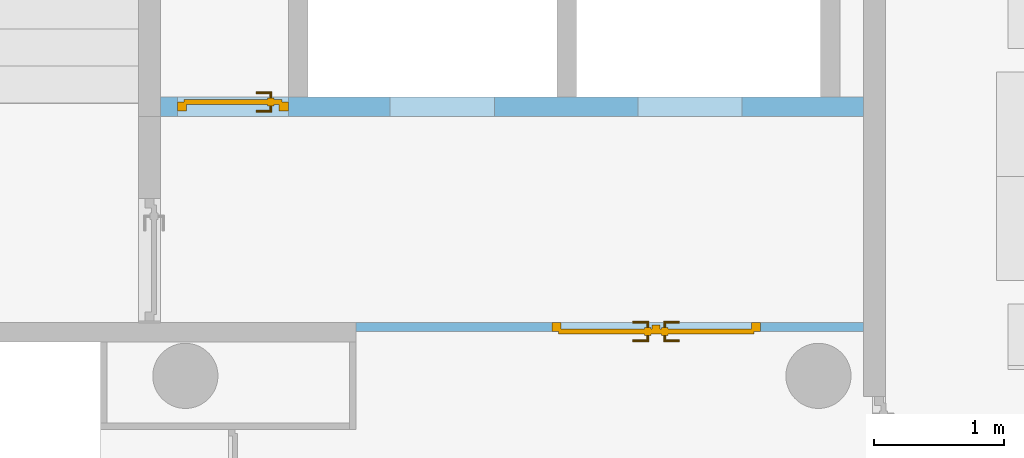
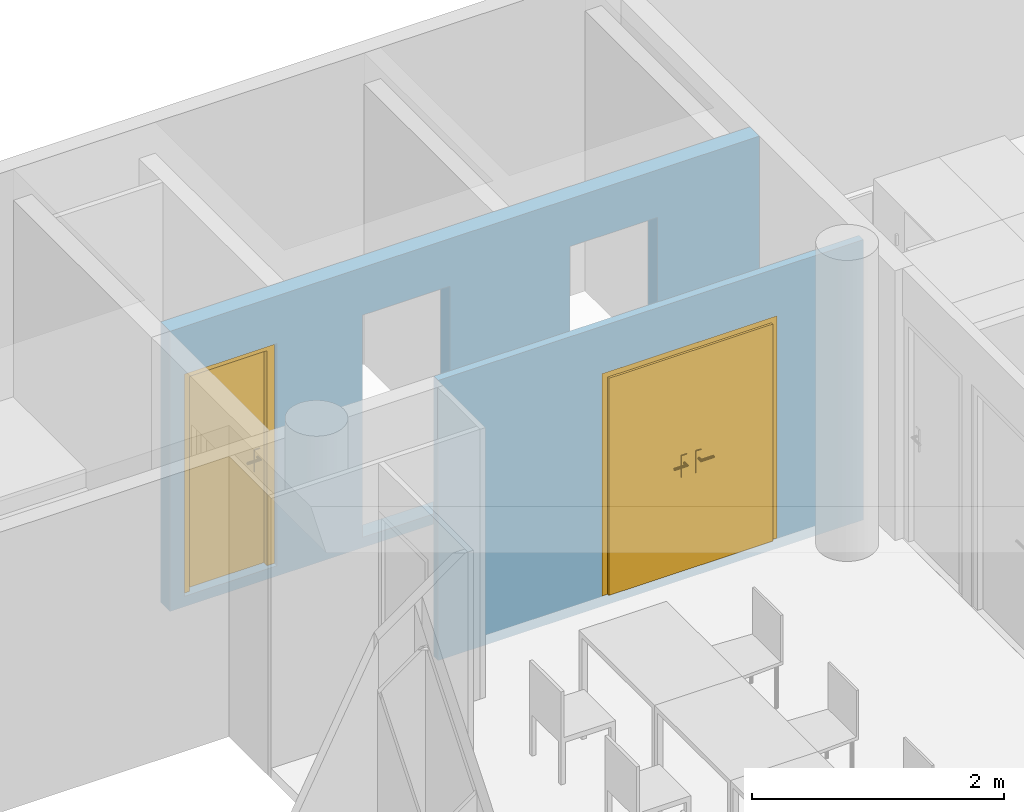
"""IFC4 building model written with IfcOpenShell, lengths in metres."""

from ifc_helpers import new_model, entity, si_unit, converted_unit, derived_unit, frame, frame_2d, origin, origin_with_axes, place, context, subcontext, project, spatial, polyline, rectangle, outline, extrude, faceted_brep, source, transform, mapped, material, layer, layer_set, layer_usage, element, fill, save


model = new_model("IFC4")

# Units and contexts
model_context = context("Model", 3, precision=1e-05, world=origin())
body_context = subcontext(model_context, "Body", "Model", "MODEL_VIEW")
ifc_project = project(units=[si_unit("LENGTHUNIT", "METRE"), si_unit("AREAUNIT", "SQUARE_METRE"), si_unit("VOLUMEUNIT", "CUBIC_METRE"), si_unit("MASSUNIT", "GRAM", prefix="KILO"), converted_unit("PLANEANGLEUNIT", "DEGREE", entity("IfcPlaneAngleMeasure", 0.0174532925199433), si_unit("PLANEANGLEUNIT", "RADIAN"), dimensions=[0, 0, 0, 0, 0, 0, 0]), derived_unit("THERMALTRANSMITTANCEUNIT", [(si_unit("POWERUNIT", "WATT"), 1), (si_unit("THERMODYNAMICTEMPERATUREUNIT", "KELVIN"), -1), (si_unit("LENGTHUNIT", "METRE"), -2)]), derived_unit("VOLUMETRICFLOWRATEUNIT", [(si_unit("LENGTHUNIT", "METRE"), 3), (converted_unit("TIMEUNIT", "hour", entity("IfcTimeMeasure", 3600.0), si_unit("TIMEUNIT", "SECOND"), dimensions=[0, 0, 1, 0, 0, 0, 0]), -1), (si_unit("LENGTHUNIT", "METRE"), -1)])], contexts=[model_context])

# Building, storeys
building_placement = place(None, origin())
building = spatial("IfcBuilding", under=ifc_project, at=building_placement, Name="HABITATGE PLURIFAMILIAR", CompositionType="ELEMENT")
storey_1_placement = place(building_placement, frame((0.0, 0.0, 6.25)))
storey_1 = spatial("IfcBuildingStorey", under=building, at=storey_1_placement, Name="PLANTA PRIMERA", CompositionType="ELEMENT", Elevation=6.25)
storey_2_placement = place(storey_1_placement, frame((0.0, 0.0, 3.35)))
storey_2 = spatial("IfcBuildingStorey", under=storey_1, at=storey_2_placement, Name="NOU", CompositionType="PARTIAL")

# Wall, opening, door
ifc_material_1 = material()
ifc_layer_1 = layer(ifc_material_1, 0.07)
ifc_layer_set_1 = layer_set([ifc_layer_1])
ifc_layer_usage_1 = layer_usage(ifc_layer_set_1, "AXIS2", "POSITIVE", 0.0)
wall_1_placement = place(storey_2_placement, frame((421.336984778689, 24.3094598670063, -3.45), z_axis=(0.0, 0.0, 1.0), x_axis=(-1.0, 5.98536358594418e-14, 0.0)))
wall_1 = element("IfcWall", 1, at=wall_1_placement, inside=storey_2, material=ifc_layer_usage_1, Name="Mampara P1", context=body_context, shape_type="SweptSolid", body=[
    extrude(rectangle(XDim=3.8900000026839, YDim=0.07, at=frame_2d((1.94500000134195, 0.035), x_axis=(1.0, 0.0))), origin_with_axes(), (0.0, 0.0, 1.0), 2.71),
])
opening_1_placement = place(wall_1_placement, frame((2.39000000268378, 0.0700000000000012, 0.1), z_axis=(5.84675165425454e-14, -1.0, 0.0), x_axis=(0.0, 0.0, 1.0)))
opening_1 = element("IfcOpeningElement", 2, at=opening_1_placement, cuts=wall_1, Name="Vano de puerta P1", ObjectType="Opening", context=body_context, shape_type="SweptSolid", body=[
    extrude(outline(polyline([(2.15, 1.60127470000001), (2.15, 0.0), (0.0, 0.0), (0.0, 1.60127470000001), (2.15, 1.60127470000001)])), origin_with_axes(), (0.0, 0.0, 1.0), 0.07),
])
shared_shape_1 = source(origin_with_axes(), body_context, "Body", "Brep", [
    faceted_brep([(1.60127470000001, 0.0700000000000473, 2.15), (1.53127470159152, 0.07000000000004, 2.15), (1.53127470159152, 0.07000000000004, 0.0), (1.60127470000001, 0.0700000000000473, 0.0), (1.60127470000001, 0.0, 0.0), (1.53127470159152, 0.0, 0.0), (1.53127470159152, 0.0, 2.15), (1.60127470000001, 0.0, 2.15)], [[[0, 1, 2, 3]], [[4, 5, 6, 7]], [[3, 4, 7, 0]], [[2, 5, 4, 3]], [[1, 6, 5, 2]], [[0, 7, 6, 1]]], orient=[[False], [False], [False], [False], [False], [False]]),
    faceted_brep([(0.0699999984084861, 0.0699999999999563, 2.15), (0.0, 0.0699999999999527, 2.15), (0.0, 0.0699999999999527, 0.0), (0.0699999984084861, 0.0699999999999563, 0.0), (0.0699999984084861, 0.0, 0.0), (0.0, 0.0, 0.0), (0.0, 0.0, 2.15), (0.0699999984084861, 0.0, 2.15)], [[[0, 1, 2, 3]], [[4, 5, 6, 7]], [[3, 4, 7, 0]], [[2, 5, 4, 3]], [[1, 6, 5, 2]], [[0, 7, 6, 1]]], orient=[[False], [False], [False], [False], [False], [False]]),
    faceted_brep([(1.53127470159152, 0.07000000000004, 2.15), (0.0699999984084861, 0.0699999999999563, 2.15), (0.0699999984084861, 0.0699999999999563, 2.08), (1.53127470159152, 0.07000000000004, 2.08), (1.53127470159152, 0.0, 2.08), (0.0699999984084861, 0.0, 2.08), (0.0699999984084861, 0.0, 2.15), (1.53127470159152, 0.0, 2.15)], [[[0, 1, 2, 3]], [[4, 5, 6, 7]], [[3, 4, 7, 0]], [[2, 5, 4, 3]], [[1, 6, 5, 2]], [[0, 7, 6, 1]]], orient=[[False], [False], [False], [False], [False], [False]]),
    faceted_brep([(1.5512747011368, 0.0900000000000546, 2.1), (0.801137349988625, 0.0900000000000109, 2.1), (0.801137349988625, 0.0900000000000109, 0.0), (1.5512747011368, 0.0900000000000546, 0.0), (1.5512747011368, 0.0500000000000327, 0.0), (0.801137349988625, 0.0499999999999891, 0.0), (0.801137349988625, 0.0499999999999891, 2.1), (1.5512747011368, 0.0500000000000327, 2.1)], [[[0, 1, 2, 3]], [[4, 5, 6, 7]], [[3, 4, 7, 0]], [[2, 5, 4, 3]], [[1, 6, 5, 2]], [[0, 7, 6, 1]]], orient=[[False], [False], [False], [False], [False], [False]]),
    faceted_brep([(0.831137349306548, 0.0499999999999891, 2.08), (0.771137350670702, 0.0499999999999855, 2.08), (0.771137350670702, 0.0499999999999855, 0.0), (0.831137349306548, 0.0499999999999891, 0.0), (0.831137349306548, 0.0199999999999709, 0.0), (0.771137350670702, 0.0199999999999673, 0.0), (0.771137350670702, 0.0199999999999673, 2.08), (0.831137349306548, 0.0199999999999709, 2.08)], [[[0, 1, 2, 3]], [[4, 5, 6, 7]], [[3, 4, 7, 0]], [[2, 5, 4, 3]], [[1, 6, 5, 2]], [[0, 7, 6, 1]]], orient=[[False], [False], [False], [False], [False], [False]]),
    faceted_brep([(0.891137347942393, 0.0499999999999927, 1.125), (0.841137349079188, 0.0499999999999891, 1.125), (0.841137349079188, 0.0499999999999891, 0.91), (0.891137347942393, 0.0499999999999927, 0.91), (0.891137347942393, 0.0399999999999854, 0.91), (0.841137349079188, 0.0399999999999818, 0.91), (0.841137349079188, 0.0399999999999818, 1.125), (0.891137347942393, 0.0399999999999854, 1.125)], [[[0, 1, 2, 3]], [[4, 5, 6, 7]], [[3, 4, 7, 0]], [[2, 5, 4, 3]], [[1, 6, 5, 2]], [[0, 7, 6, 1]]], orient=[[False], [False], [False], [False], [False], [False]]),
    faceted_brep([(0.866137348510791, 0.0399999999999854, 1.06), (0.86113734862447, 0.0399999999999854, 1.05866025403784), (0.857477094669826, 0.0399999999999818, 1.055), (0.85613734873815, 0.0399999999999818, 1.05), (0.857477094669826, 0.0399999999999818, 1.045), (0.86113734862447, 0.0399999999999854, 1.04133974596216), (0.866137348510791, 0.0399999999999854, 1.04), (0.871137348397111, 0.0399999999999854, 1.04133974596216), (0.874797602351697, 0.0399999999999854, 1.045), (0.876137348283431, 0.0399999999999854, 1.05), (0.874797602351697, 0.0399999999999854, 1.055), (0.871137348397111, 0.0399999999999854, 1.05866025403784), (0.866137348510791, 0.0, 1.06), (0.86113734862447, -0.00500000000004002, 1.05866025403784), (0.857477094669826, -0.00866025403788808, 1.055), (0.85613734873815, -0.0100000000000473, 1.05), (0.857477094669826, -0.00866025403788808, 1.045), (0.86113734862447, -0.00500000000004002, 1.04133974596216), (0.866137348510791, 0.0, 1.04), (0.871137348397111, 0.00499999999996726, 1.04133974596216), (0.874797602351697, 0.00866025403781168, 1.045), (0.876137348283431, 0.0099999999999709, 1.05), (0.874797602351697, 0.00866025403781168, 1.055), (0.871137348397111, 0.00499999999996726, 1.05866025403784), (0.981137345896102, 0.0, 1.06), (0.981137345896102, 0.0049999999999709, 1.05866025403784), (0.981137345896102, 0.00866025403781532, 1.055), (0.981137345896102, 0.00999999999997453, 1.05), (0.981137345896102, 0.00866025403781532, 1.045), (0.981137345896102, 0.0049999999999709, 1.04133974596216), (0.981137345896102, 0.0, 1.04), (0.981137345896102, -0.00500000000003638, 1.04133974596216), (0.981137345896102, -0.00866025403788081, 1.045), (0.981137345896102, -0.01000000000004, 1.05), (0.981137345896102, -0.00866025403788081, 1.055), (0.981137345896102, -0.00500000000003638, 1.05866025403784)], [[[0, 1, 2, 3, 4, 5, 6, 7, 8, 9, 10, 11]], [[0, 12, 13, 1]], [[1, 13, 14, 2]], [[2, 14, 15, 3]], [[3, 15, 16, 4]], [[4, 16, 17, 5]], [[5, 17, 18, 6]], [[6, 18, 19, 7]], [[7, 19, 20, 8]], [[8, 20, 21, 9]], [[9, 21, 22, 10]], [[10, 22, 23, 11]], [[11, 23, 12, 0]], [[24, 25, 26, 27, 28, 29, 30, 31, 32, 33, 34, 35]], [[12, 24, 35, 13]], [[13, 35, 34, 14]], [[14, 34, 33, 15]], [[15, 33, 32, 16]], [[16, 32, 31, 17]], [[17, 31, 30, 18]], [[18, 30, 29, 19]], [[19, 29, 28, 20]], [[20, 28, 27, 21]], [[21, 27, 26, 22]], [[22, 26, 25, 23]], [[23, 25, 24, 12]]], orient=[[False], [False], [False], [False], [False], [False], [False], [False], [False], [False], [False], [False], [False], [False], [False], [False], [False], [False], [False], [False], [False], [False], [False], [False], [False], [False]]),
    faceted_brep([(0.891137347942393, 0.0900000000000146, 1.125), (0.891137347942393, 0.0900000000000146, 0.91), (0.841137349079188, 0.0900000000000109, 0.91), (0.841137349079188, 0.0900000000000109, 1.125), (0.891137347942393, 0.100000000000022, 0.91), (0.891137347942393, 0.100000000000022, 1.125), (0.841137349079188, 0.100000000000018, 1.125), (0.841137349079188, 0.100000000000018, 0.91)], [[[0, 1, 2, 3]], [[4, 5, 6, 7]], [[1, 0, 5, 4]], [[2, 1, 4, 7]], [[3, 2, 7, 6]], [[0, 3, 6, 5]]], orient=[[False], [False], [False], [False], [False], [False]]),
    faceted_brep([(0.866137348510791, 0.100000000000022, 1.06), (0.871137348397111, 0.100000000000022, 1.05866025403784), (0.874797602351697, 0.100000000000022, 1.055), (0.876137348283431, 0.100000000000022, 1.05), (0.874797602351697, 0.100000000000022, 1.045), (0.871137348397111, 0.100000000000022, 1.04133974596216), (0.866137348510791, 0.100000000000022, 1.04), (0.86113734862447, 0.100000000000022, 1.04133974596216), (0.857477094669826, 0.100000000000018, 1.045), (0.85613734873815, 0.100000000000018, 1.05), (0.857477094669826, 0.100000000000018, 1.055), (0.86113734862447, 0.100000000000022, 1.05866025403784), (0.86113734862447, 0.145000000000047, 1.05866025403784), (0.866137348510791, 0.140000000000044, 1.06), (0.857477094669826, 0.148660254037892, 1.055), (0.85613734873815, 0.150000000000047, 1.05), (0.857477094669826, 0.148660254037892, 1.045), (0.86113734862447, 0.145000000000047, 1.04133974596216), (0.866137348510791, 0.140000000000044, 1.04), (0.871137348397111, 0.13500000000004, 1.04133974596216), (0.874797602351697, 0.131339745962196, 1.045), (0.876137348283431, 0.13000000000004, 1.05), (0.874797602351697, 0.131339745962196, 1.055), (0.871137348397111, 0.13500000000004, 1.05866025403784), (0.981137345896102, 0.140000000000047, 1.06), (0.981137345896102, 0.145000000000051, 1.05866025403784), (0.981137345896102, 0.148660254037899, 1.055), (0.981137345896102, 0.150000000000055, 1.05), (0.981137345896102, 0.148660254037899, 1.045), (0.981137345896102, 0.145000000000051, 1.04133974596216), (0.981137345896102, 0.140000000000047, 1.04), (0.981137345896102, 0.135000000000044, 1.04133974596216), (0.981137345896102, 0.131339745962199, 1.045), (0.981137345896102, 0.130000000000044, 1.05), (0.981137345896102, 0.131339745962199, 1.055), (0.981137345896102, 0.135000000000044, 1.05866025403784)], [[[0, 1, 2, 3, 4, 5, 6, 7, 8, 9, 10, 11]], [[0, 11, 12, 13]], [[11, 10, 14, 12]], [[10, 9, 15, 14]], [[9, 8, 16, 15]], [[8, 7, 17, 16]], [[7, 6, 18, 17]], [[6, 5, 19, 18]], [[5, 4, 20, 19]], [[4, 3, 21, 20]], [[3, 2, 22, 21]], [[2, 1, 23, 22]], [[1, 0, 13, 23]], [[24, 25, 26, 27, 28, 29, 30, 31, 32, 33, 34, 35]], [[13, 12, 25, 24]], [[12, 14, 26, 25]], [[14, 15, 27, 26]], [[15, 16, 28, 27]], [[16, 17, 29, 28]], [[17, 18, 30, 29]], [[18, 19, 31, 30]], [[19, 20, 32, 31]], [[20, 21, 33, 32]], [[21, 22, 34, 33]], [[22, 23, 35, 34]], [[23, 13, 24, 35]]], orient=[[False], [False], [False], [False], [False], [False], [False], [False], [False], [False], [False], [False], [False], [False], [False], [False], [False], [False], [False], [False], [False], [False], [False], [False], [False], [False]]),
    faceted_brep([(0.800137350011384, 0.0900000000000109, 2.1), (0.0499999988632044, 0.0899999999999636, 2.1), (0.0499999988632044, 0.0899999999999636, 0.0), (0.800137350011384, 0.0900000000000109, 0.0), (0.800137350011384, 0.0499999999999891, 0.0), (0.0499999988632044, 0.0499999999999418, 0.0), (0.0499999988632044, 0.0499999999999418, 2.1), (0.800137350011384, 0.0499999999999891, 2.1)], [[[0, 1, 2, 3]], [[4, 5, 6, 7]], [[3, 4, 7, 0]], [[2, 5, 4, 3]], [[1, 6, 5, 2]], [[0, 7, 6, 1]]], orient=[[False], [False], [False], [False], [False], [False]]),
    faceted_brep([(0.760137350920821, 0.0499999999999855, 1.125), (0.710137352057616, 0.0499999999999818, 1.125), (0.710137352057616, 0.0499999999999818, 0.91), (0.760137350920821, 0.0499999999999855, 0.91), (0.760137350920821, 0.0399999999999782, 0.91), (0.710137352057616, 0.0399999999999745, 0.91), (0.710137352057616, 0.0399999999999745, 1.125), (0.760137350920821, 0.0399999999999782, 1.125)], [[[0, 1, 2, 3]], [[4, 5, 6, 7]], [[3, 4, 7, 0]], [[2, 5, 4, 3]], [[1, 6, 5, 2]], [[0, 7, 6, 1]]], orient=[[False], [False], [False], [False], [False], [False]]),
    faceted_brep([(0.735137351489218, 0.0399999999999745, 1.06), (0.730137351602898, 0.0399999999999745, 1.05866025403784), (0.726477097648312, 0.0399999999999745, 1.055), (0.725137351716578, 0.0399999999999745, 1.05), (0.726477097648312, 0.0399999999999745, 1.045), (0.730137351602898, 0.0399999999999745, 1.04133974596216), (0.735137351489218, 0.0399999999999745, 1.04), (0.740137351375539, 0.0399999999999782, 1.04133974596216), (0.743797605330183, 0.0399999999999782, 1.045), (0.745137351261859, 0.0399999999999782, 1.05), (0.743797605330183, 0.0399999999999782, 1.055), (0.740137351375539, 0.0399999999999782, 1.05866025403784), (0.740137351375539, -0.00500000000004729, 1.05866025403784), (0.735137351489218, 0.0, 1.06), (0.743797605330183, -0.00866025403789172, 1.055), (0.745137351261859, -0.0100000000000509, 1.05), (0.743797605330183, -0.00866025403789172, 1.045), (0.740137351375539, -0.00500000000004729, 1.04133974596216), (0.735137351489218, 0.0, 1.04), (0.730137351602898, 0.00499999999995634, 1.04133974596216), (0.726477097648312, 0.00866025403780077, 1.045), (0.725137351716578, 0.00999999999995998, 1.05), (0.726477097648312, 0.00866025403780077, 1.055), (0.730137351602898, 0.00499999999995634, 1.05866025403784), (0.620137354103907, 0.0, 1.06), (0.620137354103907, -0.00500000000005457, 1.05866025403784), (0.620137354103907, -0.00866025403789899, 1.055), (0.620137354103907, -0.0100000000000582, 1.05), (0.620137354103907, -0.00866025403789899, 1.045), (0.620137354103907, -0.00500000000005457, 1.04133974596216), (0.620137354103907, 0.0, 1.04), (0.620137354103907, 0.00499999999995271, 1.04133974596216), (0.620137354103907, 0.00866025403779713, 1.045), (0.620137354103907, 0.00999999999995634, 1.05), (0.620137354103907, 0.00866025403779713, 1.055), (0.620137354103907, 0.00499999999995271, 1.05866025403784)], [[[0, 1, 2, 3, 4, 5, 6, 7, 8, 9, 10, 11]], [[0, 11, 12, 13]], [[11, 10, 14, 12]], [[10, 9, 15, 14]], [[9, 8, 16, 15]], [[8, 7, 17, 16]], [[7, 6, 18, 17]], [[6, 5, 19, 18]], [[5, 4, 20, 19]], [[4, 3, 21, 20]], [[3, 2, 22, 21]], [[2, 1, 23, 22]], [[1, 0, 13, 23]], [[24, 25, 26, 27, 28, 29, 30, 31, 32, 33, 34, 35]], [[13, 12, 25, 24]], [[12, 14, 26, 25]], [[14, 15, 27, 26]], [[15, 16, 28, 27]], [[16, 17, 29, 28]], [[17, 18, 30, 29]], [[18, 19, 31, 30]], [[19, 20, 32, 31]], [[20, 21, 33, 32]], [[21, 22, 34, 33]], [[22, 23, 35, 34]], [[23, 13, 24, 35]]], orient=[[False], [False], [False], [False], [False], [False], [False], [False], [False], [False], [False], [False], [False], [False], [False], [False], [False], [False], [False], [False], [False], [False], [False], [False], [False], [False]]),
    faceted_brep([(0.760137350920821, 0.0900000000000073, 1.125), (0.760137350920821, 0.0900000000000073, 0.91), (0.710137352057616, 0.0900000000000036, 0.91), (0.710137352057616, 0.0900000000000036, 1.125), (0.760137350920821, 0.100000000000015, 0.91), (0.760137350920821, 0.100000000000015, 1.125), (0.710137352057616, 0.100000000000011, 1.125), (0.710137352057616, 0.100000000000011, 0.91)], [[[0, 1, 2, 3]], [[4, 5, 6, 7]], [[1, 0, 5, 4]], [[2, 1, 4, 7]], [[3, 2, 7, 6]], [[0, 3, 6, 5]]], orient=[[False], [False], [False], [False], [False], [False]]),
    faceted_brep([(0.735137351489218, 0.100000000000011, 1.06), (0.740137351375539, 0.100000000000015, 1.05866025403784), (0.743797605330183, 0.100000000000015, 1.055), (0.745137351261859, 0.100000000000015, 1.05), (0.743797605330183, 0.100000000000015, 1.045), (0.740137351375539, 0.100000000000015, 1.04133974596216), (0.735137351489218, 0.100000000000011, 1.04), (0.730137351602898, 0.100000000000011, 1.04133974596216), (0.726477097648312, 0.100000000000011, 1.045), (0.725137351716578, 0.100000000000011, 1.05), (0.726477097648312, 0.100000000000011, 1.055), (0.730137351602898, 0.100000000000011, 1.05866025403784), (0.735137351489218, 0.140000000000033, 1.06), (0.740137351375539, 0.14500000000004, 1.05866025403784), (0.743797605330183, 0.148660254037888, 1.055), (0.745137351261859, 0.150000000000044, 1.05), (0.743797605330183, 0.148660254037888, 1.045), (0.740137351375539, 0.14500000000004, 1.04133974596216), (0.735137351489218, 0.140000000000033, 1.04), (0.730137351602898, 0.135000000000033, 1.04133974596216), (0.726477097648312, 0.131339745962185, 1.045), (0.725137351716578, 0.130000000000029, 1.05), (0.726477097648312, 0.131339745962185, 1.055), (0.730137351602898, 0.135000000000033, 1.05866025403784), (0.620137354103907, 0.140000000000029, 1.06), (0.620137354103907, 0.135000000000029, 1.05866025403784), (0.620137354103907, 0.131339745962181, 1.055), (0.620137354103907, 0.130000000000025, 1.05), (0.620137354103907, 0.131339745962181, 1.045), (0.620137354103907, 0.135000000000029, 1.04133974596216), (0.620137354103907, 0.140000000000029, 1.04), (0.620137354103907, 0.145000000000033, 1.04133974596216), (0.620137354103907, 0.148660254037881, 1.045), (0.620137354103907, 0.150000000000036, 1.05), (0.620137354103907, 0.148660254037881, 1.055), (0.620137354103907, 0.145000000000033, 1.05866025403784)], [[[0, 1, 2, 3, 4, 5, 6, 7, 8, 9, 10, 11]], [[0, 12, 13, 1]], [[1, 13, 14, 2]], [[2, 14, 15, 3]], [[3, 15, 16, 4]], [[4, 16, 17, 5]], [[5, 17, 18, 6]], [[6, 18, 19, 7]], [[7, 19, 20, 8]], [[8, 20, 21, 9]], [[9, 21, 22, 10]], [[10, 22, 23, 11]], [[11, 23, 12, 0]], [[24, 25, 26, 27, 28, 29, 30, 31, 32, 33, 34, 35]], [[12, 24, 35, 13]], [[13, 35, 34, 14]], [[14, 34, 33, 15]], [[15, 33, 32, 16]], [[16, 32, 31, 17]], [[17, 31, 30, 18]], [[18, 30, 29, 19]], [[19, 29, 28, 20]], [[20, 28, 27, 21]], [[21, 27, 26, 22]], [[22, 26, 25, 23]], [[23, 25, 24, 12]]], orient=[[False], [False], [False], [False], [False], [False], [False], [False], [False], [False], [False], [False], [False], [False], [False], [False], [False], [False], [False], [False], [False], [False], [False], [False], [False], [False]]),
])
door_1_placement = place(opening_1_placement, frame((0.0, 1.60127470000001, 0.0699999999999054), z_axis=(1.0, 0.0, 0.0), x_axis=(0.0, -1.0, 5.7683975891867e-14)))
door_1 = element("IfcDoor", 3, at=door_1_placement, inside=storey_2, Name="Porta P1", OperationType="USERDEFINED", OverallHeight=2.15, OverallWidth=1.60127, PredefinedType="DOOR", context=body_context, shape_type="MappedRepresentation", body=[
    mapped(shared_shape_1, transform((0.0, 0.0, 0.0), x_axis=(1.0, 0.0, 0.0), y_axis=(0.0, 1.0, 0.0), z_axis=(0.0, 0.0, 1.0), scale=1.0)),
])
fill(opening_1, door_1)

# Wall, openings, door
ifc_material_2 = material()
ifc_layer_2 = layer(ifc_material_2, 0.15)
ifc_layer_set_2 = layer_set([ifc_layer_2])
ifc_layer_usage_2 = layer_usage(ifc_layer_set_2, "AXIS2", "POSITIVE", 0.0)
wall_2_placement = place(storey_2_placement, frame((415.946984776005, 25.8894598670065, -3.45)))
wall_2 = element("IfcWall", 4, at=wall_2_placement, inside=storey_2, material=ifc_layer_usage_2, Name="Envans P1", context=body_context, shape_type="SweptSolid", body=[
    extrude(rectangle(XDim=5.39000000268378, YDim=0.15, at=frame_2d((2.69500000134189, 0.075), x_axis=(1.0, 0.0))), origin_with_axes(), (0.0, 0.0, 1.0), 2.71),
])
opening_2_placement = place(wall_2_placement, frame((3.66000000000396, 0.0, 0.1), z_axis=(0.0, 1.0, 0.0), x_axis=(0.0, 0.0, 1.0)))
element("IfcOpeningElement", 5, at=opening_2_placement, cuts=wall_2, Name="Vano de puerta P1", ObjectType="Opening", context=body_context, shape_type="SweptSolid", body=[
    extrude(outline(polyline([(2.15, 0.8), (2.15, 0.0), (0.0, 0.0), (0.0, 0.8), (2.15, 0.8)])), origin_with_axes(), (0.0, 0.0, 1.0), 0.15),
])
opening_3_placement = place(wall_2_placement, frame((0.13, 0.0, 0.1), z_axis=(0.0, 1.0, 0.0), x_axis=(0.0, 0.0, 1.0)))
opening_3 = element("IfcOpeningElement", 6, at=opening_3_placement, cuts=wall_2, Name="Vano de puerta P1", ObjectType="Opening", context=body_context, shape_type="SweptSolid", body=[
    extrude(outline(polyline([(2.15, 0.849999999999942), (2.15, 0.0), (0.0, 0.0), (0.0, 0.849999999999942), (2.15, 0.849999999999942)])), origin_with_axes(), (0.0, 0.0, 1.0), 0.15),
])
opening_4_placement = place(wall_2_placement, frame((1.76000000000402, 0.0, 0.1), z_axis=(0.0, 1.0, 0.0), x_axis=(0.0, 0.0, 1.0)))
element("IfcOpeningElement", 7, at=opening_4_placement, cuts=wall_2, Name="Vano de puerta P1", ObjectType="Opening", context=body_context, shape_type="SweptSolid", body=[
    extrude(outline(polyline([(2.15, 0.8), (2.15, 0.0), (0.0, 0.0), (0.0, 0.8), (2.15, 0.8)])), origin_with_axes(), (0.0, 0.0, 1.0), 0.15),
])
shared_shape_2 = source(origin_with_axes(), body_context, "Body", "Brep", [
    faceted_brep([(0.849999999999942, 0.07, 2.15), (0.779999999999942, 0.07, 2.15), (0.779999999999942, 0.07, 0.0), (0.849999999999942, 0.07, 0.0), (0.849999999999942, 0.0, 0.0), (0.779999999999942, 0.0, 0.0), (0.779999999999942, 0.0, 2.15), (0.849999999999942, 0.0, 2.15)], [[[0, 1, 2, 3]], [[4, 5, 6, 7]], [[3, 4, 7, 0]], [[2, 5, 4, 3]], [[1, 6, 5, 2]], [[0, 7, 6, 1]]], orient=[[False], [False], [False], [False], [False], [False]]),
    faceted_brep([(0.07, 0.07, 2.15), (0.0, 0.07, 2.15), (0.0, 0.07, 0.0), (0.07, 0.07, 0.0), (0.07, 0.0, 0.0), (0.0, 0.0, 0.0), (0.0, 0.0, 2.15), (0.07, 0.0, 2.15)], [[[0, 1, 2, 3]], [[4, 5, 6, 7]], [[3, 4, 7, 0]], [[2, 5, 4, 3]], [[1, 6, 5, 2]], [[0, 7, 6, 1]]], orient=[[False], [False], [False], [False], [False], [False]]),
    faceted_brep([(0.779999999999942, 0.07, 2.15), (0.07, 0.07, 2.15), (0.07, 0.07, 2.08), (0.779999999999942, 0.07, 2.08), (0.779999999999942, 0.0, 2.08), (0.07, 0.0, 2.08), (0.07, 0.0, 2.15), (0.779999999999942, 0.0, 2.15)], [[[0, 1, 2, 3]], [[4, 5, 6, 7]], [[3, 4, 7, 0]], [[2, 5, 4, 3]], [[1, 6, 5, 2]], [[0, 7, 6, 1]]], orient=[[False], [False], [False], [False], [False], [False]]),
    faceted_brep([(0.799999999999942, 0.09, 2.1), (0.05, 0.09, 2.1), (0.05, 0.09, 0.0), (0.799999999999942, 0.09, 0.0), (0.799999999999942, 0.05, 0.0), (0.05, 0.05, 0.0), (0.05, 0.05, 2.1), (0.799999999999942, 0.05, 2.1)], [[[0, 1, 2, 3]], [[4, 5, 6, 7]], [[3, 4, 7, 0]], [[2, 5, 4, 3]], [[1, 6, 5, 2]], [[0, 7, 6, 1]]], orient=[[False], [False], [False], [False], [False], [False]]),
    faceted_brep([(0.739999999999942, 0.05, 1.125), (0.689999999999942, 0.05, 1.125), (0.689999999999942, 0.05, 0.91), (0.739999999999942, 0.05, 0.91), (0.739999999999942, 0.04, 0.91), (0.689999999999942, 0.04, 0.91), (0.689999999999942, 0.04, 1.125), (0.739999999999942, 0.04, 1.125)], [[[0, 1, 2, 3]], [[4, 5, 6, 7]], [[3, 4, 7, 0]], [[2, 5, 4, 3]], [[1, 6, 5, 2]], [[0, 7, 6, 1]]], orient=[[False], [False], [False], [False], [False], [False]]),
    faceted_brep([(0.714999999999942, 0.04, 1.06), (0.709999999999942, 0.04, 1.05866025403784), (0.706339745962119, 0.04, 1.055), (0.704999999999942, 0.04, 1.05), (0.706339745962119, 0.04, 1.045), (0.709999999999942, 0.04, 1.04133974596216), (0.714999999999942, 0.04, 1.04), (0.719999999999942, 0.04, 1.04133974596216), (0.723660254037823, 0.04, 1.045), (0.724999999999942, 0.04, 1.05), (0.723660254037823, 0.04, 1.055), (0.719999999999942, 0.04, 1.05866025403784), (0.719999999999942, -0.005, 1.05866025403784), (0.714999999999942, 0.0, 1.06), (0.723660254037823, -0.00866025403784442, 1.055), (0.724999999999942, -0.01, 1.05), (0.723660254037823, -0.00866025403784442, 1.045), (0.719999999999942, -0.005, 1.04133974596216), (0.714999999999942, 0.0, 1.04), (0.709999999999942, 0.005, 1.04133974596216), (0.706339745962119, 0.00866025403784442, 1.045), (0.704999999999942, 0.01, 1.05), (0.706339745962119, 0.00866025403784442, 1.055), (0.709999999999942, 0.005, 1.05866025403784), (0.599999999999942, 0.0, 1.06), (0.599999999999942, -0.005, 1.05866025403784), (0.599999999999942, -0.00866025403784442, 1.055), (0.599999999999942, -0.01, 1.05), (0.599999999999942, -0.00866025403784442, 1.045), (0.599999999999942, -0.005, 1.04133974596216), (0.599999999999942, 0.0, 1.04), (0.599999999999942, 0.005, 1.04133974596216), (0.599999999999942, 0.00866025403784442, 1.045), (0.599999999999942, 0.01, 1.05), (0.599999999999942, 0.00866025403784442, 1.055), (0.599999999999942, 0.005, 1.05866025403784)], [[[0, 1, 2, 3, 4, 5, 6, 7, 8, 9, 10, 11]], [[0, 11, 12, 13]], [[11, 10, 14, 12]], [[10, 9, 15, 14]], [[9, 8, 16, 15]], [[8, 7, 17, 16]], [[7, 6, 18, 17]], [[6, 5, 19, 18]], [[5, 4, 20, 19]], [[4, 3, 21, 20]], [[3, 2, 22, 21]], [[2, 1, 23, 22]], [[1, 0, 13, 23]], [[24, 25, 26, 27, 28, 29, 30, 31, 32, 33, 34, 35]], [[13, 12, 25, 24]], [[12, 14, 26, 25]], [[14, 15, 27, 26]], [[15, 16, 28, 27]], [[16, 17, 29, 28]], [[17, 18, 30, 29]], [[18, 19, 31, 30]], [[19, 20, 32, 31]], [[20, 21, 33, 32]], [[21, 22, 34, 33]], [[22, 23, 35, 34]], [[23, 13, 24, 35]]], orient=[[False], [False], [False], [False], [False], [False], [False], [False], [False], [False], [False], [False], [False], [False], [False], [False], [False], [False], [False], [False], [False], [False], [False], [False], [False], [False]]),
    faceted_brep([(0.739999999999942, 0.09, 1.125), (0.739999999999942, 0.09, 0.91), (0.689999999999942, 0.09, 0.91), (0.689999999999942, 0.09, 1.125), (0.739999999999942, 0.1, 0.91), (0.739999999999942, 0.1, 1.125), (0.689999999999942, 0.1, 1.125), (0.689999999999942, 0.1, 0.91)], [[[0, 1, 2, 3]], [[4, 5, 6, 7]], [[1, 0, 5, 4]], [[2, 1, 4, 7]], [[3, 2, 7, 6]], [[0, 3, 6, 5]]], orient=[[False], [False], [False], [False], [False], [False]]),
    faceted_brep([(0.714999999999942, 0.1, 1.06), (0.719999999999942, 0.1, 1.05866025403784), (0.723660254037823, 0.1, 1.055), (0.724999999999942, 0.1, 1.05), (0.723660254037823, 0.1, 1.045), (0.719999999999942, 0.1, 1.04133974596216), (0.714999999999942, 0.1, 1.04), (0.709999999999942, 0.1, 1.04133974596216), (0.706339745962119, 0.1, 1.045), (0.704999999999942, 0.1, 1.05), (0.706339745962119, 0.1, 1.055), (0.709999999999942, 0.1, 1.05866025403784), (0.714999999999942, 0.14, 1.06), (0.719999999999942, 0.145, 1.05866025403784), (0.723660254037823, 0.148660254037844, 1.055), (0.724999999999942, 0.15, 1.05), (0.723660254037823, 0.148660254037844, 1.045), (0.719999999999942, 0.145, 1.04133974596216), (0.714999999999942, 0.14, 1.04), (0.709999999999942, 0.135, 1.04133974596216), (0.706339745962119, 0.131339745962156, 1.045), (0.704999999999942, 0.13, 1.05), (0.706339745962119, 0.131339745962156, 1.055), (0.709999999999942, 0.135, 1.05866025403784), (0.599999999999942, 0.14, 1.06), (0.599999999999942, 0.135, 1.05866025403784), (0.599999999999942, 0.131339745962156, 1.055), (0.599999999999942, 0.13, 1.05), (0.599999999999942, 0.131339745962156, 1.045), (0.599999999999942, 0.135, 1.04133974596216), (0.599999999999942, 0.14, 1.04), (0.599999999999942, 0.145, 1.04133974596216), (0.599999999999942, 0.148660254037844, 1.045), (0.599999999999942, 0.15, 1.05), (0.599999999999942, 0.148660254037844, 1.055), (0.599999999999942, 0.145, 1.05866025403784)], [[[0, 1, 2, 3, 4, 5, 6, 7, 8, 9, 10, 11]], [[0, 12, 13, 1]], [[1, 13, 14, 2]], [[2, 14, 15, 3]], [[3, 15, 16, 4]], [[4, 16, 17, 5]], [[5, 17, 18, 6]], [[6, 18, 19, 7]], [[7, 19, 20, 8]], [[8, 20, 21, 9]], [[9, 21, 22, 10]], [[10, 22, 23, 11]], [[11, 23, 12, 0]], [[24, 25, 26, 27, 28, 29, 30, 31, 32, 33, 34, 35]], [[12, 24, 35, 13]], [[13, 35, 34, 14]], [[14, 34, 33, 15]], [[15, 33, 32, 16]], [[16, 32, 31, 17]], [[17, 31, 30, 18]], [[18, 30, 29, 19]], [[19, 29, 28, 20]], [[20, 28, 27, 21]], [[21, 27, 26, 22]], [[22, 26, 25, 23]], [[23, 25, 24, 12]]], orient=[[False], [False], [False], [False], [False], [False], [False], [False], [False], [False], [False], [False], [False], [False], [False], [False], [False], [False], [False], [False], [False], [False], [False], [False], [False], [False]]),
])
door_2_placement = place(opening_3_placement, frame((0.0, 0.0, 0.04), z_axis=(1.0, 0.0, 0.0), x_axis=(0.0, 1.0, 0.0)))
door_2 = element("IfcDoor", 8, at=door_2_placement, inside=storey_2, Name="Porta P1", OperationType="USERDEFINED", OverallHeight=2.15, OverallWidth=0.85, PredefinedType="DOOR", context=body_context, shape_type="MappedRepresentation", body=[
    mapped(shared_shape_2, transform((0.0, 0.0, 0.0), x_axis=(1.0, 0.0, 0.0), y_axis=(0.0, 1.0, 0.0), z_axis=(0.0, 0.0, 1.0), scale=1.0)),
])
fill(opening_3, door_2)

save(model, "model.ifc")
